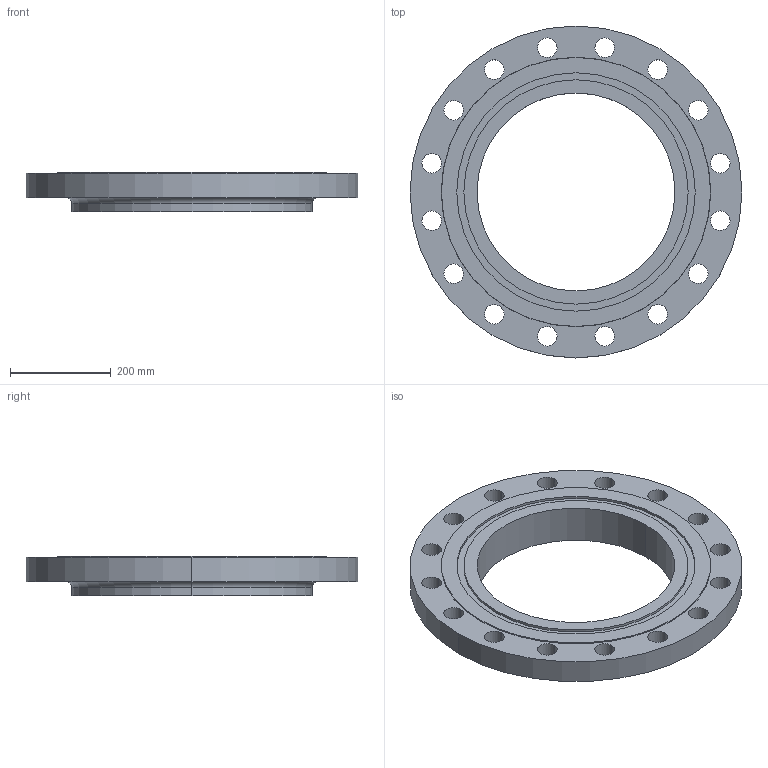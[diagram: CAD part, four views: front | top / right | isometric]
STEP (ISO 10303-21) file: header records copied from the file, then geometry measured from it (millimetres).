
FILE_DESCRIPTION (( 'STEP AP214' ), '1' );
FILE_NAME ('PN40 DN400 Type 13 - Type D Face.STEP', '2019-01-05T23:15:45', ( '' ), ( '' ), 'SwSTEP 2.0', 'SolidWorks 2019', '' );
FILE_SCHEMA (( 'AUTOMOTIVE_DESIGN' ));
Length unit declared in the file: millimetre
Products named in the file (1): PN40 DN400 Type 13 - Type D Face
Bounding box: 660 x 660 x 78 mm (x, y, z)
Volume: 11438833.5 mm3; surface area: 744479.6 mm2
Topology: 1 solids, 1 shells, 52 faces, 136 edges, 90 vertices
Faces by surface type: cylinder 42, plane 6, torus 2, cone 2
Entity records: 1758 total; most frequent: DIRECTION 334, CARTESIAN_POINT 279, ORIENTED_EDGE 272, AXIS2_PLACEMENT_3D 145, EDGE_CURVE 136, CIRCLE 92, EDGE_LOOP 90, VERTEX_POINT 90
